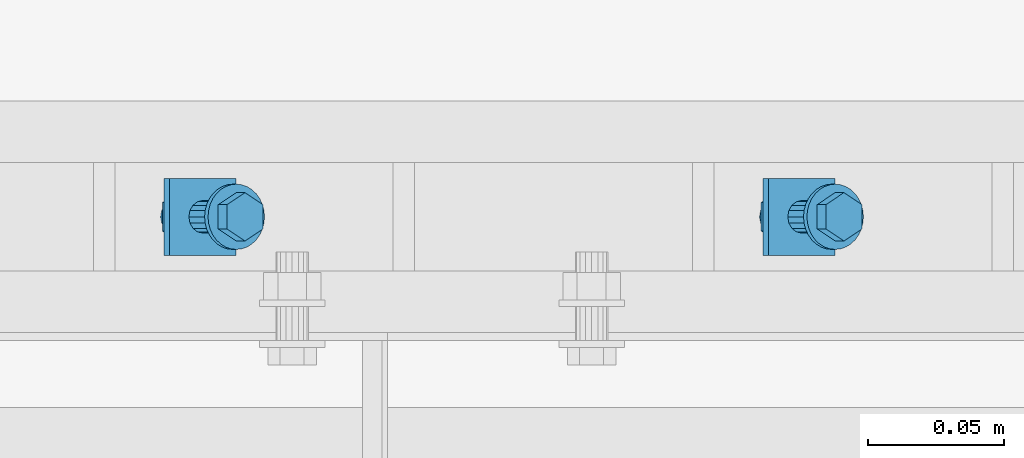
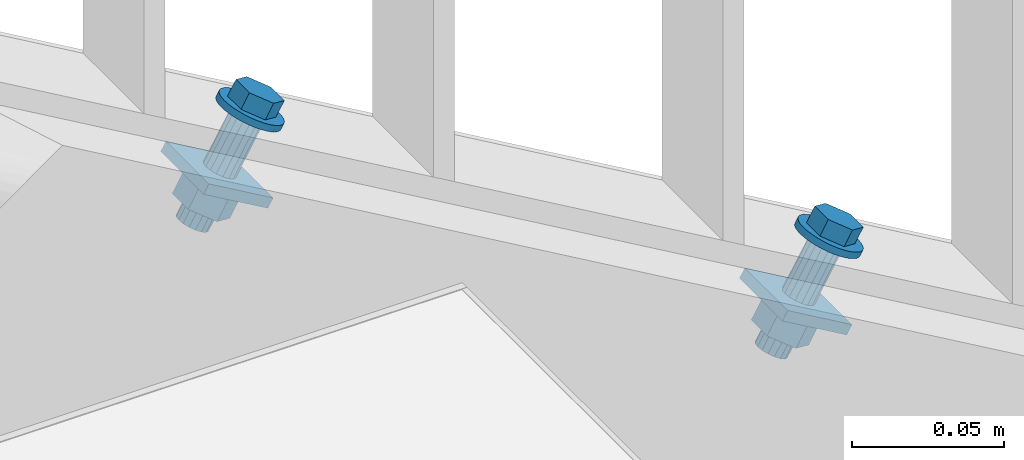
# One storey, part 125 of 145: 2 mechanical fasteners.
"""IFC2X3 building model written with IfcOpenShell, lengths in millimetres."""

from ifc_helpers import new_model, entity, si_unit, converted_unit, origin_with_axes, place, context, project, spatial, faceted_brep, element, save


model = new_model("IFC2X3")

# Units and contexts
model_context = context("Model", 3, precision=1e-09, world=origin_with_axes())
ifc_project = project(units=[si_unit("LENGTHUNIT", "METRE", prefix="MILLI"), si_unit("AREAUNIT", "SQUARE_METRE"), si_unit("VOLUMEUNIT", "CUBIC_METRE"), converted_unit("PLANEANGLEUNIT", "DEGREE", entity("IfcPlaneAngleMeasure", 0.01745329), si_unit("PLANEANGLEUNIT", "RADIAN"), dimensions=[0, 0, 0, 0, 0, 0, 0])], contexts=[model_context])

# Site, building, storey
site_placement = place(None, origin_with_axes())
site = spatial("IfcSite", under=ifc_project, at=site_placement, Name="BZ1 Grund- und Mittelschule 85716 Unterschlei?heim", CompositionType="ELEMENT")
building_placement = place(site_placement, origin_with_axes())
building = spatial("IfcBuilding", under=site, at=building_placement, Name="Struktur 1", CompositionType="ELEMENT")
storey_placement = place(building_placement, origin_with_axes())
storey = spatial("IfcBuildingStorey", under=building, at=storey_placement, Name="Default Storey", CompositionType="ELEMENT", Elevation=0.0)

# Mechanical fasteners
mechanical_fastener_1_placement = place(None, origin_with_axes())
element("IfcMechanicalFastener", 1, at=mechanical_fastener_1_placement, inside=storey, ObjectType="-", NominalDiameter=12.0, NominalLength=45.0, context=model_context, shape_type="Brep", body=[
    faceted_brep([(19801.994613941, -227.502, 1831.377690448), (19800.737886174, -227.502, 1829.216525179), (19800.538560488, -225.160916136, 1829.332434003), (19801.795288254, -225.160916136, 1831.493599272), (19799.948243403, -222.909798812, 1829.675706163), (19801.20497117, -222.909798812, 1831.836871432), (19798.989620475, -220.835157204, 1830.233149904), (19800.246348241, -220.835157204, 1832.394315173), (19797.699531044, -219.016718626, 1830.983342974), (19798.956258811, -219.016718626, 1833.144508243), (19796.127552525, -217.524364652, 1831.897455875), (19797.384280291, -217.524364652, 1834.058621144), (19794.334095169, -216.41544561, 1832.94035976), (19795.590822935, -216.41544561, 1835.10152503), (19792.388080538, -215.732576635, 1834.071976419), (19793.644808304, -215.732576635, 1836.233141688), (19790.364292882, -215.502, 1835.248818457), (19791.621020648, -215.502, 1837.409983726), (19788.340505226, -215.732576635, 1836.425660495), (19789.597232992, -215.732576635, 1838.586825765), (19786.394490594, -216.41544561, 1837.557277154), (19787.651218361, -216.41544561, 1839.718442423), (19784.601033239, -217.524364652, 1838.600181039), (19785.857761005, -217.524364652, 1840.761346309), (19783.029054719, -219.016718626, 1839.51429394), (19784.285782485, -219.016718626, 1841.67545921), (19781.738965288, -220.835157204, 1840.264487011), (19782.995693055, -220.835157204, 1842.42565228), (19780.78034236, -222.909798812, 1840.821930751), (19782.037070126, -222.909798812, 1842.983096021), (19780.190025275, -225.160916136, 1841.165202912), (19781.446753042, -225.160916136, 1843.326368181), (19779.990699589, -227.502, 1841.281111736), (19781.247427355, -227.502, 1843.442277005), (19780.190025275, -229.843083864, 1841.165202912), (19781.446753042, -229.843083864, 1843.326368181), (19780.78034236, -232.094201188, 1840.821930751), (19782.037070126, -232.094201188, 1842.983096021), (19781.738965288, -234.168842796, 1840.264487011), (19782.995693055, -234.168842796, 1842.42565228), (19783.029054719, -235.987281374, 1839.51429394), (19784.285782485, -235.987281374, 1841.67545921), (19784.601033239, -237.479635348, 1838.600181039), (19785.857761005, -237.479635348, 1840.761346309), (19786.394490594, -238.58855439, 1837.557277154), (19787.651218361, -238.58855439, 1839.718442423), (19788.340505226, -239.271423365, 1836.425660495), (19789.597232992, -239.271423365, 1838.586825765), (19790.364292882, -239.502, 1835.248818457), (19791.621020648, -239.502, 1837.409983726), (19792.388080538, -239.271423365, 1834.071976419), (19793.644808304, -239.271423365, 1836.233141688), (19794.334095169, -238.58855439, 1832.94035976), (19795.590822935, -238.58855439, 1835.10152503), (19796.127552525, -237.479635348, 1831.897455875), (19797.384280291, -237.479635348, 1834.058621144), (19797.699531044, -235.987281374, 1830.983342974), (19798.956258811, -235.987281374, 1833.144508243), (19798.989620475, -234.168842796, 1830.233149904), (19800.246348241, -234.168842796, 1832.394315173), (19799.948243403, -232.094201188, 1829.675706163), (19801.20497117, -232.094201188, 1831.836871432), (19800.538560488, -229.843083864, 1829.332434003), (19801.795288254, -229.843083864, 1831.493599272)], [[[0, 1, 2, 3]], [[3, 2, 4, 5]], [[5, 4, 6, 7]], [[7, 6, 8, 9]], [[9, 8, 10, 11]], [[11, 10, 12, 13]], [[13, 12, 14, 15]], [[15, 14, 16, 17]], [[17, 16, 18, 19]], [[19, 18, 20, 21]], [[21, 20, 22, 23]], [[23, 22, 24, 25]], [[25, 24, 26, 27]], [[27, 26, 28, 29]], [[29, 28, 30, 31]], [[31, 30, 32, 33]], [[33, 32, 34, 35]], [[35, 34, 36, 37]], [[37, 36, 38, 39]], [[39, 38, 40, 41]], [[41, 40, 42, 43]], [[43, 42, 44, 45]], [[45, 44, 46, 47]], [[47, 46, 48, 49]], [[49, 48, 50, 51]], [[51, 50, 52, 53]], [[53, 52, 54, 55]], [[55, 54, 56, 57]], [[57, 56, 58, 59]], [[59, 58, 60, 61]], [[61, 60, 62, 63]], [[63, 62, 1, 0]], [[0, 3, 5, 7, 9, 11, 13, 15, 17, 19, 21, 23, 25, 27, 29, 31, 33, 35, 37, 39, 41, 43, 45, 47, 49, 51, 53, 55, 57, 59, 61, 63]], [[1, 62, 60, 58, 56, 54, 52, 50, 48, 46, 44, 42, 40, 38, 36, 34, 32, 30, 28, 26, 24, 22, 20, 18, 16, 14, 12, 10, 8, 6, 4, 2]]]),
    faceted_brep([(19784.969268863, -223.0595, 1841.278008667), (19788.186491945, -223.0595, 1846.810591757), (19794.83824373, -218.617, 1842.942566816), (19791.621020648, -218.617, 1837.409983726), (19801.489995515, -223.0595, 1839.074541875), (19798.272772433, -223.0595, 1833.541958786), (19801.489995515, -231.9445, 1839.074541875), (19798.272772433, -231.9445, 1833.541958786), (19794.83824373, -236.387, 1842.942566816), (19791.621020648, -236.387, 1837.409983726), (19788.186491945, -231.9445, 1846.810591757), (19784.969268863, -231.9445, 1841.278008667)], [[[0, 1, 2, 3]], [[3, 2, 4, 5]], [[5, 4, 6, 7]], [[7, 6, 8, 9]], [[9, 8, 10, 11]], [[11, 10, 1, 0]], [[4, 2, 1, 10, 8, 6]], [[0, 3, 5, 7, 9, 11]]]),
    faceted_brep([(19795.551089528, -227.502, 1832.232671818), (19784.570297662, -227.502, 1813.349261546), (19784.175476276, -225.205899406, 1813.578852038), (19795.156268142, -225.205899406, 1832.46226231), (19783.051120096, -223.259359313, 1814.232670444), (19794.031911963, -223.259359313, 1833.116080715), (19781.368402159, -221.958722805, 1815.211178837), (19792.349194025, -221.958722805, 1834.094589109), (19779.383501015, -221.502, 1816.365408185), (19790.364292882, -221.502, 1835.248818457), (19777.398599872, -221.958722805, 1817.519637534), (19788.379391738, -221.958722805, 1836.403047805), (19775.715881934, -223.259359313, 1818.498145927), (19786.6966738, -223.259359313, 1837.381556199), (19774.591525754, -225.205899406, 1819.151964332), (19785.572317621, -225.205899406, 1838.035374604), (19774.196704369, -227.502, 1819.381554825), (19785.177496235, -227.502, 1838.264965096), (19774.591525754, -229.798100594, 1819.151964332), (19785.572317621, -229.798100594, 1838.035374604), (19775.715881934, -231.744640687, 1818.498145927), (19786.6966738, -231.744640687, 1837.381556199), (19777.398599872, -233.045277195, 1817.519637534), (19788.379391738, -233.045277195, 1836.403047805), (19779.383501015, -233.502, 1816.365408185), (19790.364292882, -233.502, 1835.248818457), (19781.368402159, -233.045277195, 1815.211178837), (19792.349194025, -233.045277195, 1834.094589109), (19783.051120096, -231.744640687, 1814.232670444), (19794.031911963, -231.744640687, 1833.116080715), (19784.175476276, -229.798100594, 1813.578852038), (19795.156268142, -229.798100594, 1832.46226231)], [[[0, 1, 2, 3]], [[3, 2, 4, 5]], [[5, 4, 6, 7]], [[7, 6, 8, 9]], [[9, 8, 10, 11]], [[11, 10, 12, 13]], [[13, 12, 14, 15]], [[15, 14, 16, 17]], [[17, 16, 18, 19]], [[19, 18, 20, 21]], [[21, 20, 22, 23]], [[23, 22, 24, 25]], [[25, 24, 26, 27]], [[27, 26, 28, 29]], [[29, 28, 30, 31]], [[31, 30, 1, 0]], [[0, 3, 5, 7, 9, 11, 13, 15, 17, 19, 21, 23, 25, 27, 29, 31]], [[1, 30, 28, 26, 24, 22, 20, 18, 16, 14, 12, 10, 8, 6, 4, 2]]]),
    faceted_brep([(19765.147339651, -213.359864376, 1820.01666956), (19767.158104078, -213.359864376, 1823.474533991), (19791.608897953, -213.359864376, 1809.25628238), (19789.598133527, -213.359864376, 1805.798417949), (19791.608897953, -241.644135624, 1809.25628238), (19789.598133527, -241.644135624, 1805.798417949), (19767.158104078, -241.644135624, 1823.474533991), (19765.147339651, -241.644135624, 1820.01666956)], [[[0, 1, 2, 3]], [[3, 2, 4, 5]], [[5, 4, 6, 7]], [[7, 6, 1, 0]], [[4, 2, 1, 6]], [[0, 3, 5, 7]]]),
    faceted_brep([(19764.447572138, -222.227, 1808.85575416), (19769.474483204, -222.227, 1817.500415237), (19777.372736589, -216.952, 1812.907543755), (19772.345825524, -216.952, 1804.262882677), (19785.270989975, -222.227, 1808.314672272), (19780.244078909, -222.227, 1799.670011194), (19785.270989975, -232.777, 1808.314672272), (19780.244078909, -232.777, 1799.670011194), (19777.372736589, -238.052, 1812.907543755), (19772.345825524, -238.052, 1804.262882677), (19769.474483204, -232.777, 1817.500415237), (19764.447572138, -232.777, 1808.85575416)], [[[0, 1, 2, 3]], [[3, 2, 4, 5]], [[5, 4, 6, 7]], [[7, 6, 8, 9]], [[9, 8, 10, 11]], [[11, 10, 1, 0]], [[4, 2, 1, 10, 8, 6]], [[0, 3, 5, 7, 9, 11]]]),
    faceted_brep([(19777.53262217, -227.502, 1801.246736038), (19774.1867175, -227.502, 1795.492862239), (19773.791896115, -225.205899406, 1795.722452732), (19777.137800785, -225.205899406, 1801.47632653), (19772.667539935, -223.259359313, 1796.376271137), (19776.013444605, -223.259359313, 1802.130144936), (19770.984821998, -221.958722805, 1797.35477953), (19774.330726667, -221.958722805, 1803.108653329), (19768.999920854, -221.502, 1798.509008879), (19772.345825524, -221.502, 1804.262882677), (19767.01501971, -221.958722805, 1799.663238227), (19770.36092438, -221.958722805, 1805.417112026), (19765.332301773, -223.259359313, 1800.64174662), (19768.678206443, -223.259359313, 1806.395620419), (19764.207945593, -225.205899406, 1801.295565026), (19767.553850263, -225.205899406, 1807.049438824), (19763.813124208, -227.502, 1801.525155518), (19767.159028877, -227.502, 1807.279029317), (19764.207945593, -229.798100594, 1801.295565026), (19767.553850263, -229.798100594, 1807.049438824), (19765.332301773, -231.744640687, 1800.64174662), (19768.678206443, -231.744640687, 1806.395620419), (19767.01501971, -233.045277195, 1799.663238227), (19770.36092438, -233.045277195, 1805.417112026), (19768.999920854, -233.502, 1798.509008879), (19772.345825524, -233.502, 1804.262882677), (19770.984821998, -233.045277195, 1797.35477953), (19774.330726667, -233.045277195, 1803.108653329), (19772.667539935, -231.744640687, 1796.376271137), (19776.013444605, -231.744640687, 1802.130144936), (19773.791896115, -229.798100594, 1795.722452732), (19777.137800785, -229.798100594, 1801.47632653)], [[[0, 1, 2, 3]], [[3, 2, 4, 5]], [[5, 4, 6, 7]], [[7, 6, 8, 9]], [[9, 8, 10, 11]], [[11, 10, 12, 13]], [[13, 12, 14, 15]], [[15, 14, 16, 17]], [[17, 16, 18, 19]], [[19, 18, 20, 21]], [[21, 20, 22, 23]], [[23, 22, 24, 25]], [[25, 24, 26, 27]], [[27, 26, 28, 29]], [[29, 28, 30, 31]], [[31, 30, 1, 0]], [[0, 3, 5, 7, 9, 11, 13, 15, 17, 19, 21, 23, 25, 27, 29, 31]], [[1, 30, 28, 26, 24, 22, 20, 18, 16, 14, 12, 10, 8, 6, 4, 2]]]),
])
mechanical_fastener_2_placement = place(None, origin_with_axes())
element("IfcMechanicalFastener", 2, at=mechanical_fastener_2_placement, inside=storey, ObjectType="-", NominalDiameter=12.0, NominalLength=45.0, context=model_context, shape_type="Brep", body=[
    faceted_brep([(19581.994613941, -227.502, 1959.308724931), (19580.737886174, -227.502, 1957.147559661), (19580.538560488, -225.160916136, 1957.263468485), (19581.795288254, -225.160916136, 1959.424633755), (19579.948243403, -222.909798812, 1957.606740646), (19581.20497117, -222.909798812, 1959.767905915), (19578.989620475, -220.835157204, 1958.164184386), (19580.246348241, -220.835157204, 1960.325349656), (19577.699531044, -219.016718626, 1958.914377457), (19578.956258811, -219.016718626, 1961.075542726), (19576.127552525, -217.524364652, 1959.828490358), (19577.384280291, -217.524364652, 1961.989655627), (19574.334095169, -216.41544561, 1960.871394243), (19575.590822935, -216.41544561, 1963.032559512), (19572.388080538, -215.732576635, 1962.003010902), (19573.644808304, -215.732576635, 1964.164176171), (19570.364292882, -215.502, 1963.17985294), (19571.621020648, -215.502, 1965.341018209), (19568.340505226, -215.732576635, 1964.356694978), (19569.597232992, -215.732576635, 1966.517860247), (19566.394490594, -216.41544561, 1965.488311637), (19567.651218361, -216.41544561, 1967.649476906), (19564.601033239, -217.524364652, 1966.531215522), (19565.857761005, -217.524364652, 1968.692380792), (19563.029054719, -219.016718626, 1967.445328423), (19564.285782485, -219.016718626, 1969.606493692), (19561.738965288, -220.835157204, 1968.195521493), (19562.995693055, -220.835157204, 1970.356686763), (19560.78034236, -222.909798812, 1968.752965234), (19562.037070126, -222.909798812, 1970.914130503), (19560.190025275, -225.160916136, 1969.096237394), (19561.446753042, -225.160916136, 1971.257402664), (19559.990699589, -227.502, 1969.212146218), (19561.247427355, -227.502, 1971.373311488), (19560.190025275, -229.843083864, 1969.096237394), (19561.446753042, -229.843083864, 1971.257402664), (19560.78034236, -232.094201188, 1968.752965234), (19562.037070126, -232.094201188, 1970.914130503), (19561.738965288, -234.168842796, 1968.195521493), (19562.995693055, -234.168842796, 1970.356686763), (19563.029054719, -235.987281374, 1967.445328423), (19564.285782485, -235.987281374, 1969.606493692), (19564.601033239, -237.479635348, 1966.531215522), (19565.857761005, -237.479635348, 1968.692380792), (19566.394490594, -238.58855439, 1965.488311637), (19567.651218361, -238.58855439, 1967.649476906), (19568.340505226, -239.271423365, 1964.356694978), (19569.597232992, -239.271423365, 1966.517860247), (19570.364292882, -239.502, 1963.17985294), (19571.621020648, -239.502, 1965.341018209), (19572.388080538, -239.271423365, 1962.003010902), (19573.644808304, -239.271423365, 1964.164176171), (19574.334095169, -238.58855439, 1960.871394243), (19575.590822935, -238.58855439, 1963.032559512), (19576.127552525, -237.479635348, 1959.828490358), (19577.384280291, -237.479635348, 1961.989655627), (19577.699531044, -235.987281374, 1958.914377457), (19578.956258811, -235.987281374, 1961.075542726), (19578.989620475, -234.168842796, 1958.164184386), (19580.246348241, -234.168842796, 1960.325349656), (19579.948243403, -232.094201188, 1957.606740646), (19581.20497117, -232.094201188, 1959.767905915), (19580.538560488, -229.843083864, 1957.263468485), (19581.795288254, -229.843083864, 1959.424633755)], [[[0, 1, 2, 3]], [[3, 2, 4, 5]], [[5, 4, 6, 7]], [[7, 6, 8, 9]], [[9, 8, 10, 11]], [[11, 10, 12, 13]], [[13, 12, 14, 15]], [[15, 14, 16, 17]], [[17, 16, 18, 19]], [[19, 18, 20, 21]], [[21, 20, 22, 23]], [[23, 22, 24, 25]], [[25, 24, 26, 27]], [[27, 26, 28, 29]], [[29, 28, 30, 31]], [[31, 30, 32, 33]], [[33, 32, 34, 35]], [[35, 34, 36, 37]], [[37, 36, 38, 39]], [[39, 38, 40, 41]], [[41, 40, 42, 43]], [[43, 42, 44, 45]], [[45, 44, 46, 47]], [[47, 46, 48, 49]], [[49, 48, 50, 51]], [[51, 50, 52, 53]], [[53, 52, 54, 55]], [[55, 54, 56, 57]], [[57, 56, 58, 59]], [[59, 58, 60, 61]], [[61, 60, 62, 63]], [[63, 62, 1, 0]], [[0, 3, 5, 7, 9, 11, 13, 15, 17, 19, 21, 23, 25, 27, 29, 31, 33, 35, 37, 39, 41, 43, 45, 47, 49, 51, 53, 55, 57, 59, 61, 63]], [[1, 62, 60, 58, 56, 54, 52, 50, 48, 46, 44, 42, 40, 38, 36, 34, 32, 30, 28, 26, 24, 22, 20, 18, 16, 14, 12, 10, 8, 6, 4, 2]]]),
    faceted_brep([(19564.969268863, -223.0595, 1969.20904315), (19568.186491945, -223.0595, 1974.741626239), (19574.83824373, -218.617, 1970.873601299), (19571.621020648, -218.617, 1965.341018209), (19581.489995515, -223.0595, 1967.005576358), (19578.272772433, -223.0595, 1961.472993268), (19581.489995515, -231.9445, 1967.005576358), (19578.272772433, -231.9445, 1961.472993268), (19574.83824373, -236.387, 1970.873601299), (19571.621020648, -236.387, 1965.341018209), (19568.186491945, -231.9445, 1974.741626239), (19564.969268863, -231.9445, 1969.20904315)], [[[0, 1, 2, 3]], [[3, 2, 4, 5]], [[5, 4, 6, 7]], [[7, 6, 8, 9]], [[9, 8, 10, 11]], [[11, 10, 1, 0]], [[4, 2, 1, 10, 8, 6]], [[0, 3, 5, 7, 9, 11]]]),
    faceted_brep([(19575.551089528, -227.502, 1960.163706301), (19564.570297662, -227.502, 1941.280296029), (19564.175476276, -225.205899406, 1941.509886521), (19575.156268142, -225.205899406, 1960.393296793), (19563.051120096, -223.259359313, 1942.163704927), (19574.031911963, -223.259359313, 1961.047115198), (19561.368402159, -221.958722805, 1943.14221332), (19572.349194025, -221.958722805, 1962.025623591), (19559.383501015, -221.502, 1944.296442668), (19570.364292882, -221.502, 1963.17985294), (19557.398599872, -221.958722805, 1945.450672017), (19568.379391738, -221.958722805, 1964.334082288), (19555.715881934, -223.259359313, 1946.42918041), (19566.6966738, -223.259359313, 1965.312590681), (19554.591525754, -225.205899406, 1947.082998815), (19565.572317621, -225.205899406, 1965.966409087), (19554.196704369, -227.502, 1947.312589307), (19565.177496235, -227.502, 1966.195999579), (19554.591525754, -229.798100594, 1947.082998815), (19565.572317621, -229.798100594, 1965.966409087), (19555.715881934, -231.744640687, 1946.42918041), (19566.6966738, -231.744640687, 1965.312590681), (19557.398599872, -233.045277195, 1945.450672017), (19568.379391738, -233.045277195, 1964.334082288), (19559.383501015, -233.502, 1944.296442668), (19570.364292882, -233.502, 1963.17985294), (19561.368402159, -233.045277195, 1943.14221332), (19572.349194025, -233.045277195, 1962.025623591), (19563.051120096, -231.744640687, 1942.163704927), (19574.031911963, -231.744640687, 1961.047115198), (19564.175476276, -229.798100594, 1941.509886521), (19575.156268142, -229.798100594, 1960.393296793)], [[[0, 1, 2, 3]], [[3, 2, 4, 5]], [[5, 4, 6, 7]], [[7, 6, 8, 9]], [[9, 8, 10, 11]], [[11, 10, 12, 13]], [[13, 12, 14, 15]], [[15, 14, 16, 17]], [[17, 16, 18, 19]], [[19, 18, 20, 21]], [[21, 20, 22, 23]], [[23, 22, 24, 25]], [[25, 24, 26, 27]], [[27, 26, 28, 29]], [[29, 28, 30, 31]], [[31, 30, 1, 0]], [[0, 3, 5, 7, 9, 11, 13, 15, 17, 19, 21, 23, 25, 27, 29, 31]], [[1, 30, 28, 26, 24, 22, 20, 18, 16, 14, 12, 10, 8, 6, 4, 2]]]),
    faceted_brep([(19545.147339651, -213.359864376, 1947.947704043), (19547.158104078, -213.359864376, 1951.405568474), (19571.608897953, -213.359864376, 1937.187316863), (19569.598133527, -213.359864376, 1933.729452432), (19571.608897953, -241.644135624, 1937.187316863), (19569.598133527, -241.644135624, 1933.729452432), (19547.158104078, -241.644135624, 1951.405568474), (19545.147339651, -241.644135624, 1947.947704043)], [[[0, 1, 2, 3]], [[3, 2, 4, 5]], [[5, 4, 6, 7]], [[7, 6, 1, 0]], [[4, 2, 1, 6]], [[0, 3, 5, 7]]]),
    faceted_brep([(19544.447572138, -222.227, 1936.786788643), (19549.474483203, -222.227, 1945.43144972), (19557.372736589, -216.952, 1940.838578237), (19552.345825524, -216.952, 1932.19391716), (19565.270989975, -222.227, 1936.245706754), (19560.244078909, -222.227, 1927.601045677), (19565.270989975, -232.777, 1936.245706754), (19560.244078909, -232.777, 1927.601045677), (19557.372736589, -238.052, 1940.838578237), (19552.345825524, -238.052, 1932.19391716), (19549.474483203, -232.777, 1945.43144972), (19544.447572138, -232.777, 1936.786788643)], [[[0, 1, 2, 3]], [[3, 2, 4, 5]], [[5, 4, 6, 7]], [[7, 6, 8, 9]], [[9, 8, 10, 11]], [[11, 10, 1, 0]], [[4, 2, 1, 10, 8, 6]], [[0, 3, 5, 7, 9, 11]]]),
    faceted_brep([(19557.53262217, -227.502, 1929.177770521), (19554.1867175, -227.502, 1923.423896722), (19553.791896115, -225.205899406, 1923.653487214), (19557.137800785, -225.205899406, 1929.407361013), (19552.667539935, -223.259359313, 1924.30730562), (19556.013444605, -223.259359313, 1930.061179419), (19550.984821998, -221.958722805, 1925.285814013), (19554.330726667, -221.958722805, 1931.039687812), (19548.999920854, -221.502, 1926.440043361), (19552.345825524, -221.502, 1932.19391716), (19547.01501971, -221.958722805, 1927.59427271), (19550.36092438, -221.958722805, 1933.348146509), (19545.332301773, -223.259359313, 1928.572781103), (19548.678206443, -223.259359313, 1934.326654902), (19544.207945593, -225.205899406, 1929.226599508), (19547.553850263, -225.205899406, 1934.980473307), (19543.813124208, -227.502, 1929.456190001), (19547.159028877, -227.502, 1935.210063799), (19544.207945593, -229.798100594, 1929.226599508), (19547.553850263, -229.798100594, 1934.980473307), (19545.332301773, -231.744640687, 1928.572781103), (19548.678206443, -231.744640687, 1934.326654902), (19547.01501971, -233.045277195, 1927.59427271), (19550.36092438, -233.045277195, 1933.348146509), (19548.999920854, -233.502, 1926.440043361), (19552.345825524, -233.502, 1932.19391716), (19550.984821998, -233.045277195, 1925.285814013), (19554.330726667, -233.045277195, 1931.039687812), (19552.667539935, -231.744640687, 1924.30730562), (19556.013444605, -231.744640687, 1930.061179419), (19553.791896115, -229.798100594, 1923.653487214), (19557.137800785, -229.798100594, 1929.407361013)], [[[0, 1, 2, 3]], [[3, 2, 4, 5]], [[5, 4, 6, 7]], [[7, 6, 8, 9]], [[9, 8, 10, 11]], [[11, 10, 12, 13]], [[13, 12, 14, 15]], [[15, 14, 16, 17]], [[17, 16, 18, 19]], [[19, 18, 20, 21]], [[21, 20, 22, 23]], [[23, 22, 24, 25]], [[25, 24, 26, 27]], [[27, 26, 28, 29]], [[29, 28, 30, 31]], [[31, 30, 1, 0]], [[0, 3, 5, 7, 9, 11, 13, 15, 17, 19, 21, 23, 25, 27, 29, 31]], [[1, 30, 28, 26, 24, 22, 20, 18, 16, 14, 12, 10, 8, 6, 4, 2]]]),
])

save(model, "model.ifc")
